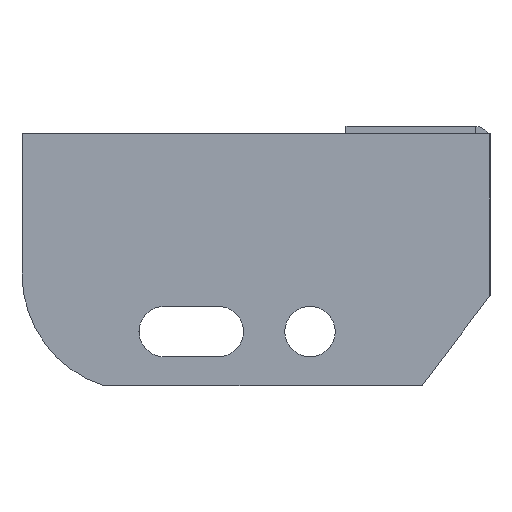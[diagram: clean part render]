
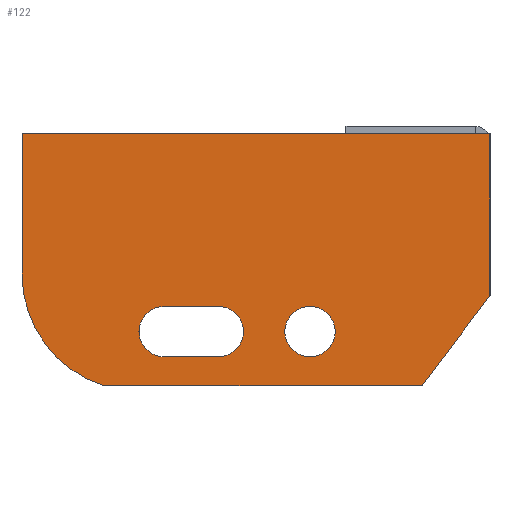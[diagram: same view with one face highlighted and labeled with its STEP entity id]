
A CAD part, left-side view. The second image highlights one B-rep face of the part: STEP entity #122.
In plain terms, the highlighted planar face has unit normal (-1, 0, 0) as drawn and (0, 0, 1) by its records, which use the part's own axes.
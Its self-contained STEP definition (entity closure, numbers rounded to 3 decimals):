
#30 = CIRCLE ( 'NONE', #1170, 7. ) ;
#31 = ORIENTED_EDGE ( 'NONE', *, *, #545, .F. ) ;
#61 = ORIENTED_EDGE ( 'NONE', *, *, #1034, .T. ) ;
#85 = CARTESIAN_POINT ( 'NONE',  ( -130., 0., 3. ) ) ;
#88 = DIRECTION ( 'NONE',  ( 1., 0., 0. ) ) ;
#118 = DIRECTION ( 'NONE',  ( -1., 0., 0. ) ) ;
#122 = ADVANCED_FACE ( 'NONE', ( #603, #1856, #1556 ), #616, .T. ) ;
#138 = ORIENTED_EDGE ( 'NONE', *, *, #1413, .F. ) ;
#169 = CIRCLE ( 'NONE', #1475, 7. ) ;
#183 = ORIENTED_EDGE ( 'NONE', *, *, #884, .F. ) ;
#188 = AXIS2_PLACEMENT_3D ( 'NONE', #362, #1584, #350 ) ;
#203 = CARTESIAN_POINT ( 'NONE',  ( -90.5, -62., 3. ) ) ;
#239 = CIRCLE ( 'NONE', #1025, 32.5 ) ;
#256 = CARTESIAN_POINT ( 'NONE',  ( -97.5, -39., 3. ) ) ;
#257 = ORIENTED_EDGE ( 'NONE', *, *, #1092, .T. ) ;
#290 = EDGE_CURVE ( 'NONE', #1925, #1461, #239, .T. ) ;
#309 = EDGE_CURVE ( 'NONE', #1029, #520, #169, .T. ) ;
#325 = VERTEX_POINT ( 'NONE', #1337 ) ;
#350 = DIRECTION ( 'NONE',  ( 1., 0., 0. ) ) ;
#362 = CARTESIAN_POINT ( 'NONE',  ( -90.5, -55., 3. ) ) ;
#371 = CARTESIAN_POINT ( 'NONE',  ( -50., -55., 3. ) ) ;
#384 = LINE ( 'NONE', #980, #482 ) ;
#388 = CIRCLE ( 'NONE', #680, 7. ) ;
#426 = CARTESIAN_POINT ( 'NONE',  ( -97.5, -55., 3. ) ) ;
#439 = CARTESIAN_POINT ( 'NONE',  ( 0., 0., 3. ) ) ;
#440 = DIRECTION ( 'NONE',  ( 1., 0., 0. ) ) ;
#446 = VECTOR ( 'NONE', #1946, 1000. ) ;
#482 = VECTOR ( 'NONE', #1322, 1000. ) ;
#502 = VERTEX_POINT ( 'NONE', #1066 ) ;
#520 = VERTEX_POINT ( 'NONE', #1646 ) ;
#545 = EDGE_CURVE ( 'NONE', #520, #325, #1691, .T. ) ;
#563 = ORIENTED_EDGE ( 'NONE', *, *, #1279, .F. ) ;
#564 = DIRECTION ( 'NONE',  ( -1., 0., 0. ) ) ;
#576 = CIRCLE ( 'NONE', #188, 7. ) ;
#597 = VERTEX_POINT ( 'NONE', #426 ) ;
#602 = DIRECTION ( 'NONE',  ( 0., 1., 0. ) ) ;
#603 = FACE_OUTER_BOUND ( 'NONE', #1420, .T. ) ;
#607 = EDGE_CURVE ( 'NONE', #1508, #1364, #1667, .T. ) ;
#616 = PLANE ( 'NONE',  #772 ) ;
#637 = ORIENTED_EDGE ( 'NONE', *, *, #1067, .F. ) ;
#642 = CARTESIAN_POINT ( 'NONE',  ( -90.5, -55., 3. ) ) ;
#657 = CARTESIAN_POINT ( 'NONE',  ( -43., -55., 3. ) ) ;
#680 = AXIS2_PLACEMENT_3D ( 'NONE', #642, #1130, #1285 ) ;
#702 = CARTESIAN_POINT ( 'NONE',  ( -107.26, -70., 3. ) ) ;
#713 = CARTESIAN_POINT ( 'NONE',  ( 0., 0., 3. ) ) ;
#714 = EDGE_CURVE ( 'NONE', #1490, #502, #1579, .T. ) ;
#759 = DIRECTION ( 'NONE',  ( 0., 0., 1. ) ) ;
#772 = AXIS2_PLACEMENT_3D ( 'NONE', #1243, #1887, #440 ) ;
#812 = VECTOR ( 'NONE', #1083, 1000. ) ;
#830 = LINE ( 'NONE', #1451, #446 ) ;
#856 = ORIENTED_EDGE ( 'NONE', *, *, #1936, .F. ) ;
#884 = EDGE_CURVE ( 'NONE', #1314, #1029, #384, .T. ) ;
#888 = EDGE_CURVE ( 'NONE', #1461, #1490, #830, .T. ) ;
#908 = VECTOR ( 'NONE', #118, 1000. ) ;
#912 = VECTOR ( 'NONE', #602, 1000. ) ;
#925 = CARTESIAN_POINT ( 'NONE',  ( -75.5, -62., 3. ) ) ;
#936 = ORIENTED_EDGE ( 'NONE', *, *, #888, .T. ) ;
#943 = LINE ( 'NONE', #439, #912 ) ;
#948 = ORIENTED_EDGE ( 'NONE', *, *, #290, .T. ) ;
#974 = AXIS2_PLACEMENT_3D ( 'NONE', #371, #1111, #985 ) ;
#980 = CARTESIAN_POINT ( 'NONE',  ( -90.5, -62., 3. ) ) ;
#985 = DIRECTION ( 'NONE',  ( 1., 0., 0. ) ) ;
#1025 = AXIS2_PLACEMENT_3D ( 'NONE', #256, #1635, #88 ) ;
#1029 = VERTEX_POINT ( 'NONE', #925 ) ;
#1033 = ORIENTED_EDGE ( 'NONE', *, *, #309, .F. ) ;
#1034 = EDGE_CURVE ( 'NONE', #502, #1508, #943, .T. ) ;
#1066 = CARTESIAN_POINT ( 'NONE',  ( 0., -45., 3. ) ) ;
#1067 = EDGE_CURVE ( 'NONE', #1389, #1200, #30, .T. ) ;
#1071 = CARTESIAN_POINT ( 'NONE',  ( -57., -55., 3. ) ) ;
#1083 = DIRECTION ( 'NONE',  ( 0., -1., 0. ) ) ;
#1087 = DIRECTION ( 'NONE',  ( 0.602, 0.799, 0. ) ) ;
#1092 = EDGE_CURVE ( 'NONE', #1364, #1925, #1672, .T. ) ;
#1111 = DIRECTION ( 'NONE',  ( 0., 0., 1. ) ) ;
#1130 = DIRECTION ( 'NONE',  ( 0., 0., 1. ) ) ;
#1170 = AXIS2_PLACEMENT_3D ( 'NONE', #1232, #759, #1386 ) ;
#1199 = VECTOR ( 'NONE', #1087, 1000. ) ;
#1200 = VERTEX_POINT ( 'NONE', #1071 ) ;
#1226 = ORIENTED_EDGE ( 'NONE', *, *, #714, .T. ) ;
#1232 = CARTESIAN_POINT ( 'NONE',  ( -50., -55., 3. ) ) ;
#1243 = CARTESIAN_POINT ( 'NONE',  ( -97.5, -39., 3. ) ) ;
#1279 = EDGE_CURVE ( 'NONE', #325, #597, #576, .T. ) ;
#1283 = ORIENTED_EDGE ( 'NONE', *, *, #607, .T. ) ;
#1285 = DIRECTION ( 'NONE',  ( 1., 0., 0. ) ) ;
#1314 = VERTEX_POINT ( 'NONE', #203 ) ;
#1322 = DIRECTION ( 'NONE',  ( 1., 0., 0. ) ) ;
#1337 = CARTESIAN_POINT ( 'NONE',  ( -90.5, -48., 3. ) ) ;
#1346 = EDGE_LOOP ( 'NONE', ( #138, #637 ) ) ;
#1354 = CARTESIAN_POINT ( 'NONE',  ( -75.5, -55., 3. ) ) ;
#1364 = VERTEX_POINT ( 'NONE', #1763 ) ;
#1386 = DIRECTION ( 'NONE',  ( 1., 0., 0. ) ) ;
#1389 = VERTEX_POINT ( 'NONE', #657 ) ;
#1413 = EDGE_CURVE ( 'NONE', #1200, #1389, #1466, .T. ) ;
#1420 = EDGE_LOOP ( 'NONE', ( #61, #1283, #257, #948, #936, #1226 ) ) ;
#1421 = CARTESIAN_POINT ( 'NONE',  ( 0., -45., 3. ) ) ;
#1451 = CARTESIAN_POINT ( 'NONE',  ( -18.839, -70., 3. ) ) ;
#1461 = VERTEX_POINT ( 'NONE', #702 ) ;
#1466 = CIRCLE ( 'NONE', #974, 7. ) ;
#1475 = AXIS2_PLACEMENT_3D ( 'NONE', #1354, #1644, #1507 ) ;
#1484 = CARTESIAN_POINT ( 'NONE',  ( -18.839, -70., 3. ) ) ;
#1490 = VERTEX_POINT ( 'NONE', #1484 ) ;
#1507 = DIRECTION ( 'NONE',  ( 1., 0., 0. ) ) ;
#1508 = VERTEX_POINT ( 'NONE', #713 ) ;
#1519 = CARTESIAN_POINT ( 'NONE',  ( 0., 0., 3. ) ) ;
#1556 = FACE_BOUND ( 'NONE', #1784, .T. ) ;
#1579 = LINE ( 'NONE', #1421, #1199 ) ;
#1584 = DIRECTION ( 'NONE',  ( 0., 0., 1. ) ) ;
#1602 = CARTESIAN_POINT ( 'NONE',  ( -130., -39., 3. ) ) ;
#1635 = DIRECTION ( 'NONE',  ( 0., 0., 1. ) ) ;
#1644 = DIRECTION ( 'NONE',  ( 0., 0., 1. ) ) ;
#1646 = CARTESIAN_POINT ( 'NONE',  ( -75.5, -48., 3. ) ) ;
#1667 = LINE ( 'NONE', #1519, #908 ) ;
#1672 = LINE ( 'NONE', #85, #812 ) ;
#1691 = LINE ( 'NONE', #1975, #1851 ) ;
#1763 = CARTESIAN_POINT ( 'NONE',  ( -130., 0., 3. ) ) ;
#1784 = EDGE_LOOP ( 'NONE', ( #183, #856, #563, #31, #1033 ) ) ;
#1851 = VECTOR ( 'NONE', #564, 1000. ) ;
#1856 = FACE_BOUND ( 'NONE', #1346, .T. ) ;
#1887 = DIRECTION ( 'NONE',  ( 0., 0., 1. ) ) ;
#1925 = VERTEX_POINT ( 'NONE', #1602 ) ;
#1936 = EDGE_CURVE ( 'NONE', #597, #1314, #388, .T. ) ;
#1946 = DIRECTION ( 'NONE',  ( 1., 0., 0. ) ) ;
#1975 = CARTESIAN_POINT ( 'NONE',  ( -90.5, -48., 3. ) ) ;
